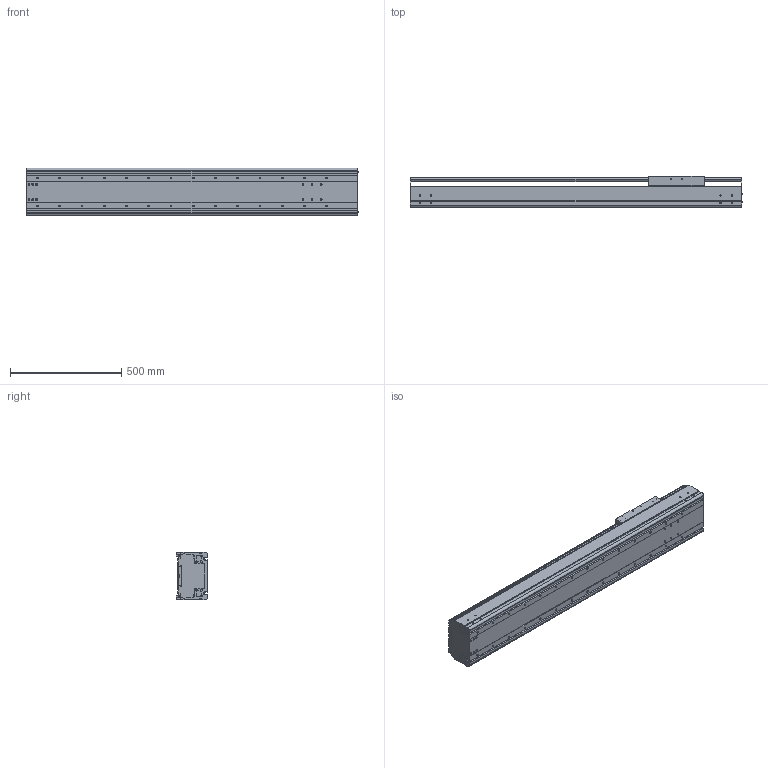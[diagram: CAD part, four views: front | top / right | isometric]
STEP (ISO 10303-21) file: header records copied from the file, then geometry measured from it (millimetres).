
FILE_DESCRIPTION((''),'2;1');
FILE_NAME('BE60J-ST-M_N-A0_IGS_PRT','2017-06-18T',(' '),(''),'PRO/ENGINEER BY PARAMETRIC TECHNOLOGY CORPORATION, 2015030','PRO/ENGINEER BY PARAMETRIC TECHNOLOGY CORPORATION, 2015030','');
FILE_SCHEMA(('CONFIG_CONTROL_DESIGN'));
Length unit declared in the file: millimetre
Products named in the file (1): BE60J-ST-M_N-A0_IGS_PRT
Bounding box: 1492.4 x 140 x 214 mm (x, y, z)
Volume: 11511348.2 mm3; surface area: 3159192.9 mm2
Topology: 2 solids, 114 shells, 1437 faces, 4030 edges, 2686 vertices
Faces by surface type: cylinder 738, plane 599, cone 52, sphere 24, torus 24
Entity records: 48337 total; most frequent: CARTESIAN_POINT 10768, DIRECTION 7846, ORIENTED_EDGE 7524, EDGE_CURVE 3982, AXIS2_PLACEMENT_3D 2914, VERTEX_POINT 2686, VECTOR 2018, LINE 2018
